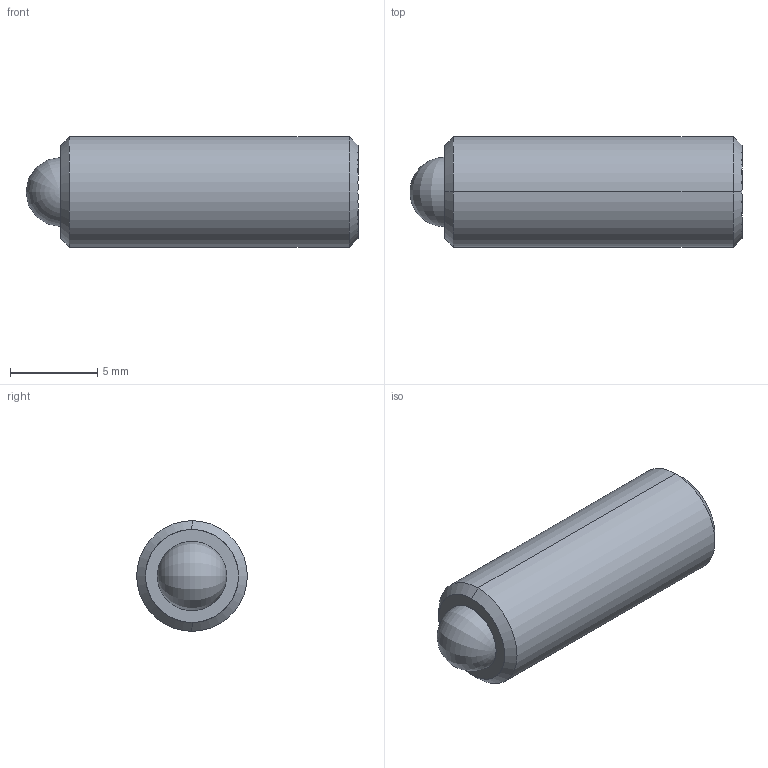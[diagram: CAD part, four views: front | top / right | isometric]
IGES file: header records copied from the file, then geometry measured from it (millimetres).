
Start section: SolidWorks IGES file using analytic representation for surfaces
Global section: file name: C:\Users\workpc\Desktop\KMA Solidworks\TS250-100 Series\TS250-100-750.IGS; native system: SolidWorks 2013; preprocessor: SolidWorks 2013; author: workpc; date: 130211.181450; units: inch
Bounding box: 19.05 x 6.35 x 6.35 mm (x, y, z)
Surface area: 484.3 mm2 (no closed solid volume)
Topology: 0 solids, 0 shells, 20 faces, 204 edges, 200 vertices
Faces by surface type: revolution 10, bspline 10
